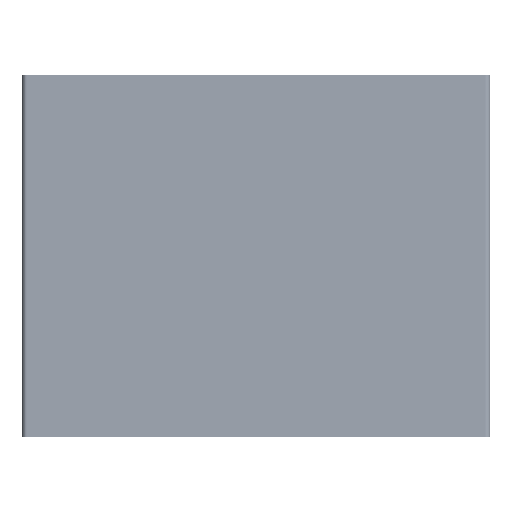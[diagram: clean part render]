
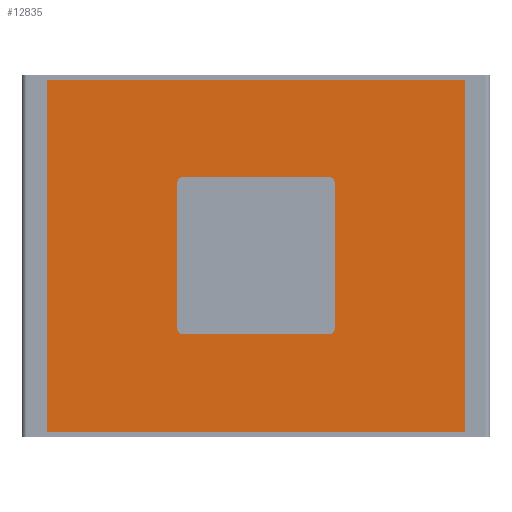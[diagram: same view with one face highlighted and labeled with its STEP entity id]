
A CAD part, front view. The second image highlights one B-rep face of the part: STEP entity #12835.
In plain terms, the highlighted planar face has unit normal (0, -1, 0) as drawn and (0, 0, 1) by its records, which use the part's own axes.
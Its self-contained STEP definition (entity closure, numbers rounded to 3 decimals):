
#61 = EDGE_CURVE ( 'NONE', #14521, #9127, #10828, .T. ) ;
#65 = CARTESIAN_POINT ( 'NONE',  ( 41.5, 56.75, 0. ) ) ;
#328 = EDGE_CURVE ( 'NONE', #7878, #629, #3872, .T. ) ;
#629 = VERTEX_POINT ( 'NONE', #9317 ) ;
#668 = VERTEX_POINT ( 'NONE', #5606 ) ;
#863 = AXIS2_PLACEMENT_3D ( 'NONE', #2888, #14145, #1506 ) ;
#1032 = DIRECTION ( 'NONE',  ( 1., 0., 0. ) ) ;
#1070 = CARTESIAN_POINT ( 'NONE',  ( 70.75, 86., 0. ) ) ;
#1111 = CARTESIAN_POINT ( 'NONE',  ( 102., 115.25, 0. ) ) ;
#1355 = FACE_BOUND ( 'NONE', #12003, .T. ) ;
#1506 = DIRECTION ( 'NONE',  ( 1., 0., 0. ) ) ;
#1530 = ORIENTED_EDGE ( 'NONE', *, *, #6509, .T. ) ;
#1755 = ORIENTED_EDGE ( 'NONE', *, *, #3305, .T. ) ;
#1984 = EDGE_CURVE ( 'NONE', #14460, #17442, #10076, .T. ) ;
#1995 = EDGE_CURVE ( 'NONE', #17442, #3866, #6524, .T. ) ;
#2103 = CARTESIAN_POINT ( 'NONE',  ( 141.5, 172., 0. ) ) ;
#2216 = ORIENTED_EDGE ( 'NONE', *, *, #6457, .T. ) ;
#2238 = EDGE_CURVE ( 'NONE', #5860, #13181, #8869, .T. ) ;
#2567 = CIRCLE ( 'NONE', #9987, 1.5 ) ;
#2594 = ORIENTED_EDGE ( 'NONE', *, *, #1995, .T. ) ;
#2724 = DIRECTION ( 'NONE',  ( 1., 0., 0. ) ) ;
#2854 = ORIENTED_EDGE ( 'NONE', *, *, #1984, .T. ) ;
#2888 = CARTESIAN_POINT ( 'NONE',  ( 0.03, 170.5, 0. ) ) ;
#2893 = CARTESIAN_POINT ( 'NONE',  ( 41.5, 115.25, 0. ) ) ;
#2957 = LINE ( 'NONE', #15885, #14682 ) ;
#3079 = DIRECTION ( 'NONE',  ( 0., 0., -1. ) ) ;
#3099 = ORIENTED_EDGE ( 'NONE', *, *, #328, .T. ) ;
#3223 = VECTOR ( 'NONE', #17776, 1000. ) ;
#3237 = EDGE_CURVE ( 'NONE', #668, #10418, #2567, .T. ) ;
#3305 = EDGE_CURVE ( 'NONE', #16751, #7878, #17727, .T. ) ;
#3354 = DIRECTION ( 'NONE',  ( 1., 0., 0. ) ) ;
#3779 = DIRECTION ( 'NONE',  ( 0., 0., 1. ) ) ;
#3864 = AXIS2_PLACEMENT_3D ( 'NONE', #1070, #3779, #7027 ) ;
#3866 = VERTEX_POINT ( 'NONE', #14112 ) ;
#3872 = LINE ( 'NONE', #14011, #9126 ) ;
#3877 = FACE_OUTER_BOUND ( 'NONE', #13644, .T. ) ;
#4023 = DIRECTION ( 'NONE',  ( -1., 0., 0. ) ) ;
#4584 = CIRCLE ( 'NONE', #9929, 2. ) ;
#4688 = EDGE_CURVE ( 'NONE', #629, #16729, #14550, .T. ) ;
#4783 = LINE ( 'NONE', #7751, #11031 ) ;
#4825 = CARTESIAN_POINT ( 'NONE',  ( 39.5, 56.75, 0. ) ) ;
#5053 = CARTESIAN_POINT ( 'NONE',  ( 0., 169., 0. ) ) ;
#5303 = LINE ( 'NONE', #5397, #8953 ) ;
#5397 = CARTESIAN_POINT ( 'NONE',  ( 0., 0., 0. ) ) ;
#5606 = CARTESIAN_POINT ( 'NONE',  ( 0., 3., 0. ) ) ;
#5702 = CARTESIAN_POINT ( 'NONE',  ( 141.5, 169., 0. ) ) ;
#5860 = VERTEX_POINT ( 'NONE', #7938 ) ;
#6450 = ORIENTED_EDGE ( 'NONE', *, *, #15775, .T. ) ;
#6457 = EDGE_CURVE ( 'NONE', #3866, #16747, #4584, .T. ) ;
#6509 = EDGE_CURVE ( 'NONE', #14521, #5860, #2957, .T. ) ;
#6524 = LINE ( 'NONE', #12372, #6827 ) ;
#6607 = ORIENTED_EDGE ( 'NONE', *, *, #61, .F. ) ;
#6670 = CARTESIAN_POINT ( 'NONE',  ( 100., 115.25, 0. ) ) ;
#6827 = VECTOR ( 'NONE', #4023, 1000. ) ;
#7027 = DIRECTION ( 'NONE',  ( 1., 0., 0. ) ) ;
#7054 = VECTOR ( 'NONE', #9157, 1000. ) ;
#7152 = DIRECTION ( 'NONE',  ( 0., 0., -1. ) ) ;
#7439 = CARTESIAN_POINT ( 'NONE',  ( 141.5, 3., 0. ) ) ;
#7529 = CARTESIAN_POINT ( 'NONE',  ( 0.03, 3., 0. ) ) ;
#7616 = EDGE_CURVE ( 'NONE', #10418, #9127, #9098, .T. ) ;
#7751 = CARTESIAN_POINT ( 'NONE',  ( 39.5, 56.75, 0. ) ) ;
#7878 = VERTEX_POINT ( 'NONE', #12727 ) ;
#7938 = CARTESIAN_POINT ( 'NONE',  ( 0.03, 169., 0. ) ) ;
#8048 = PLANE ( 'NONE',  #3864 ) ;
#8104 = DIRECTION ( 'NONE',  ( 0., 0., -1. ) ) ;
#8213 = ORIENTED_EDGE ( 'NONE', *, *, #16468, .F. ) ;
#8707 = DIRECTION ( 'NONE',  ( -1., 0., 0. ) ) ;
#8869 = CIRCLE ( 'NONE', #863, 1.5 ) ;
#8948 = ORIENTED_EDGE ( 'NONE', *, *, #11575, .T. ) ;
#8953 = VECTOR ( 'NONE', #10967, 1000. ) ;
#9098 = LINE ( 'NONE', #7529, #9338 ) ;
#9126 = VECTOR ( 'NONE', #9536, 1000. ) ;
#9127 = VERTEX_POINT ( 'NONE', #7439 ) ;
#9133 = DIRECTION ( 'NONE',  ( 0., 1., 0. ) ) ;
#9157 = DIRECTION ( 'NONE',  ( 0., -1., 0. ) ) ;
#9317 = CARTESIAN_POINT ( 'NONE',  ( 100., 117.25, 0. ) ) ;
#9338 = VECTOR ( 'NONE', #3354, 1000. ) ;
#9349 = DIRECTION ( 'NONE',  ( 0., 0., -1. ) ) ;
#9536 = DIRECTION ( 'NONE',  ( 1., 0., 0. ) ) ;
#9680 = DIRECTION ( 'NONE',  ( 1., 0., 0. ) ) ;
#9929 = AXIS2_PLACEMENT_3D ( 'NONE', #65, #7152, #9680 ) ;
#9987 = AXIS2_PLACEMENT_3D ( 'NONE', #15459, #8104, #2724 ) ;
#10076 = CIRCLE ( 'NONE', #14241, 2. ) ;
#10238 = CARTESIAN_POINT ( 'NONE',  ( 102., 56.75, 0. ) ) ;
#10418 = VERTEX_POINT ( 'NONE', #11800 ) ;
#10489 = CARTESIAN_POINT ( 'NONE',  ( 39.5, 115.25, 0. ) ) ;
#10828 = LINE ( 'NONE', #2103, #7054 ) ;
#10883 = DIRECTION ( 'NONE',  ( 0., 0., -1. ) ) ;
#10967 = DIRECTION ( 'NONE',  ( 0., 1., 0. ) ) ;
#11031 = VECTOR ( 'NONE', #9133, 1000. ) ;
#11575 = EDGE_CURVE ( 'NONE', #16729, #14460, #12065, .T. ) ;
#11707 = DIRECTION ( 'NONE',  ( 1., 0., 0. ) ) ;
#11800 = CARTESIAN_POINT ( 'NONE',  ( 0.03, 3., 0. ) ) ;
#12003 = EDGE_LOOP ( 'NONE', ( #2216, #6450, #1755, #3099, #16442, #8948, #2854, #2594 ) ) ;
#12048 = AXIS2_PLACEMENT_3D ( 'NONE', #2893, #3079, #11707 ) ;
#12065 = LINE ( 'NONE', #1111, #3223 ) ;
#12278 = CARTESIAN_POINT ( 'NONE',  ( 100., 56.75, 0. ) ) ;
#12372 = CARTESIAN_POINT ( 'NONE',  ( 100., 54.75, 0. ) ) ;
#12459 = CARTESIAN_POINT ( 'NONE',  ( 100., 54.75, 0. ) ) ;
#12727 = CARTESIAN_POINT ( 'NONE',  ( 41.5, 117.25, 0. ) ) ;
#12835 = ADVANCED_FACE ( 'NONE', ( #1355, #3877 ), #8048, .T. ) ;
#13181 = VERTEX_POINT ( 'NONE', #5053 ) ;
#13644 = EDGE_LOOP ( 'NONE', ( #6607, #1530, #17434, #8213, #13825, #15626 ) ) ;
#13825 = ORIENTED_EDGE ( 'NONE', *, *, #3237, .T. ) ;
#14011 = CARTESIAN_POINT ( 'NONE',  ( 41.5, 117.25, 0. ) ) ;
#14112 = CARTESIAN_POINT ( 'NONE',  ( 41.5, 54.75, 0. ) ) ;
#14145 = DIRECTION ( 'NONE',  ( 0., 0., -1. ) ) ;
#14241 = AXIS2_PLACEMENT_3D ( 'NONE', #12278, #10883, #1032 ) ;
#14460 = VERTEX_POINT ( 'NONE', #10238 ) ;
#14521 = VERTEX_POINT ( 'NONE', #5702 ) ;
#14550 = CIRCLE ( 'NONE', #16646, 2. ) ;
#14682 = VECTOR ( 'NONE', #8707, 1000. ) ;
#15036 = DIRECTION ( 'NONE',  ( 1., 0., 0. ) ) ;
#15459 = CARTESIAN_POINT ( 'NONE',  ( 0.03, 1.5, 0. ) ) ;
#15626 = ORIENTED_EDGE ( 'NONE', *, *, #7616, .T. ) ;
#15775 = EDGE_CURVE ( 'NONE', #16747, #16751, #4783, .T. ) ;
#15885 = CARTESIAN_POINT ( 'NONE',  ( 142.28, 169., 0. ) ) ;
#16442 = ORIENTED_EDGE ( 'NONE', *, *, #4688, .T. ) ;
#16468 = EDGE_CURVE ( 'NONE', #668, #13181, #5303, .T. ) ;
#16646 = AXIS2_PLACEMENT_3D ( 'NONE', #6670, #9349, #15036 ) ;
#16729 = VERTEX_POINT ( 'NONE', #17485 ) ;
#16747 = VERTEX_POINT ( 'NONE', #4825 ) ;
#16751 = VERTEX_POINT ( 'NONE', #10489 ) ;
#17434 = ORIENTED_EDGE ( 'NONE', *, *, #2238, .T. ) ;
#17442 = VERTEX_POINT ( 'NONE', #12459 ) ;
#17485 = CARTESIAN_POINT ( 'NONE',  ( 102., 115.25, 0. ) ) ;
#17727 = CIRCLE ( 'NONE', #12048, 2. ) ;
#17776 = DIRECTION ( 'NONE',  ( 0., -1., 0. ) ) ;
